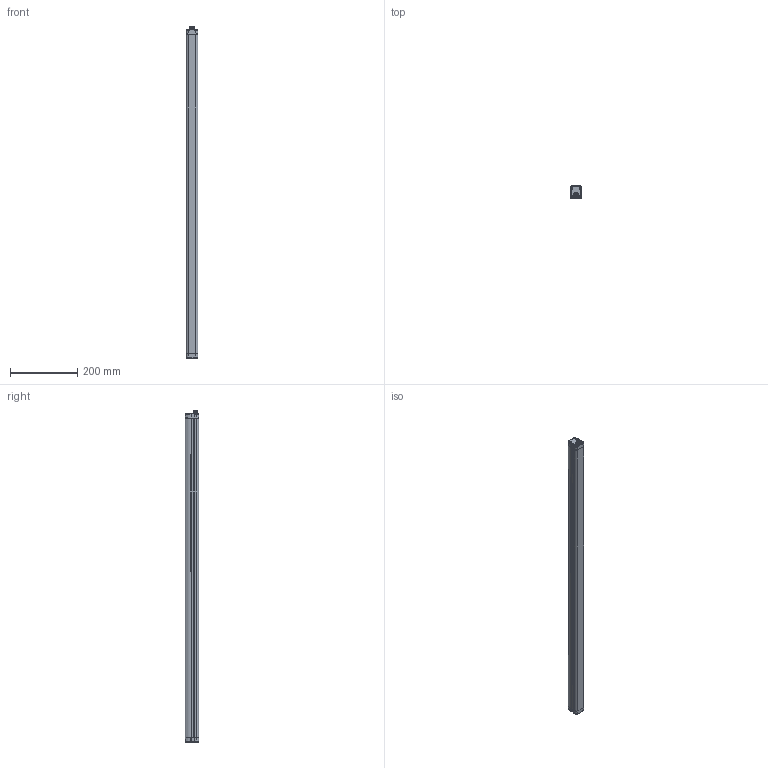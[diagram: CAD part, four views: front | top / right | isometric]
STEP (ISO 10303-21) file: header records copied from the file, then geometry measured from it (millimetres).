
FILE_DESCRIPTION(/* description */ (''),/* implementation_level */ '2;1');
FILE_NAME(/* name */ 'AP021403_01-DSD-0977 DS2-05-07-090 _TX_.stp',/* time_stamp */ '2022-04-07T16:07:01+02:00',/* author */ (''),/* organization */ (''),/* preprocessor_version */ 'ST-DEVELOPER v16.7',/* originating_system */ 'SIEMENS PLM Software NX 1946',/* authorisation */ '');
FILE_SCHEMA (('AUTOMOTIVE_DESIGN { 1 0 10303 214 3 1 1 1 }'));
Length unit declared in the file: millimetre
Products named in the file (1): FGut1114C1CAyu35
Bounding box: 35 x 40.1 x 991 mm (x, y, z)
Volume: 1193221.8 mm3; surface area: 193497 mm2
Topology: 1 solids, 4 shells, 740 faces, 2011 edges, 1289 vertices
Faces by surface type: plane 305, cylinder 205, bspline 129, cone 77, torus 18, sphere 6
Full cylindrical faces by diameter (mm): 1 x4, 3 x1, 3.8 x4, 4.2 x1, 5 x8, 6 x1, 6.8 x1, 8.3 x1, 10.4 x1, 10.55 x1, 12 x7, 14 x1, 14.5 x1
Entity records: 30893 total; most frequent: CARTESIAN_POINT 11142, ORIENTED_EDGE 3838, DIRECTION 2690, EDGE_CURVE 1919, VERTEX_POINT 1276, AXIS2_PLACEMENT_3D 1046, EDGE_LOOP 818, B_SPLINE_CURVE_WITH_KNOTS 743
